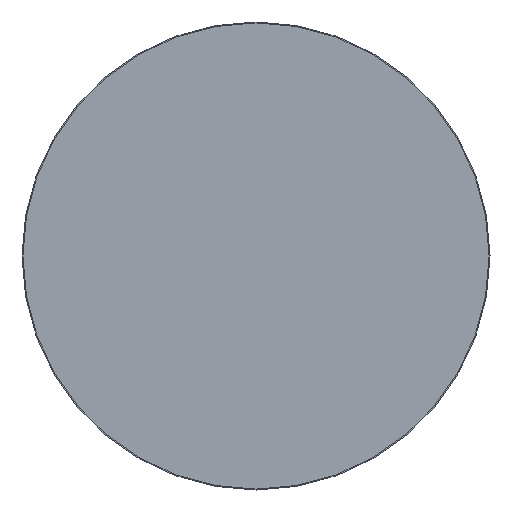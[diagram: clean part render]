
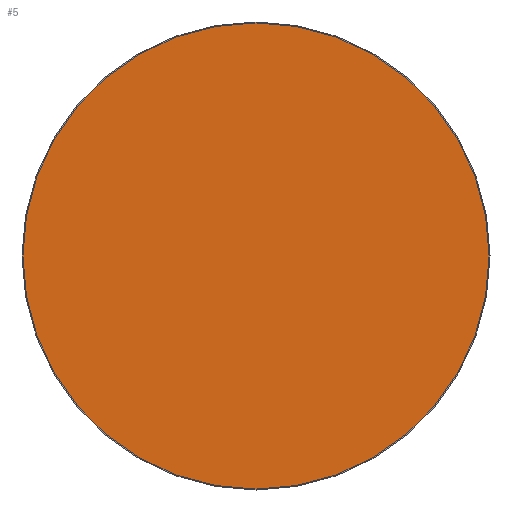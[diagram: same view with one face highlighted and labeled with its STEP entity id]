
A CAD part, front view. The second image highlights one B-rep face of the part: STEP entity #5.
In plain terms, the highlighted planar face has unit normal (0, -1, 0).
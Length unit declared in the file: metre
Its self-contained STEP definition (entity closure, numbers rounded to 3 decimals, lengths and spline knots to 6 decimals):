
#5 = ADVANCED_FACE ( 'NONE', ( #161 ), #180, .T. ) ;
#26 = ORIENTED_EDGE ( 'NONE', *, *, #247, .F. ) ;
#63 = VERTEX_POINT ( 'NONE', #115 ) ;
#115 = CARTESIAN_POINT ( 'NONE',  ( 0.0249, 0., 0. ) ) ;
#121 = CARTESIAN_POINT ( 'NONE',  ( 0.0249, 0., 0. ) ) ;
#127 = VERTEX_POINT ( 'NONE', #281 ) ;
#131 = EDGE_LOOP ( 'NONE', ( #26, #183 ) ) ;
#139 = DIRECTION ( 'NONE',  ( 1., 0., 0. ) ) ;
#161 = FACE_OUTER_BOUND ( 'NONE', #131, .T. ) ;
#166 = DIRECTION ( 'NONE',  ( 0., -1., 0. ) ) ;
#180 = PLANE ( 'NONE',  #216 ) ;
#183 = ORIENTED_EDGE ( 'NONE', *, *, #221, .F. ) ;
#194 = AXIS2_PLACEMENT_3D ( 'NONE', #356, #384, #360 ) ;
#205 = CIRCLE ( 'NONE', #194, 0.0249 ) ;
#216 = AXIS2_PLACEMENT_3D ( 'NONE', #121, #166, #139 ) ;
#221 = EDGE_CURVE ( 'NONE', #63, #127, #252, .T. ) ;
#222 = AXIS2_PLACEMENT_3D ( 'NONE', #275, #293, #306 ) ;
#247 = EDGE_CURVE ( 'NONE', #127, #63, #205, .T. ) ;
#252 = CIRCLE ( 'NONE', #222, 0.0249 ) ;
#275 = CARTESIAN_POINT ( 'NONE',  ( 0., 0., 0. ) ) ;
#281 = CARTESIAN_POINT ( 'NONE',  ( -0.0249, 0., 0. ) ) ;
#293 = DIRECTION ( 'NONE',  ( 0., 1., 0. ) ) ;
#306 = DIRECTION ( 'NONE',  ( -1., 0., 0. ) ) ;
#356 = CARTESIAN_POINT ( 'NONE',  ( 0., 0., 0. ) ) ;
#360 = DIRECTION ( 'NONE',  ( -1., 0., 0. ) ) ;
#384 = DIRECTION ( 'NONE',  ( 0., 1., 0. ) ) ;
